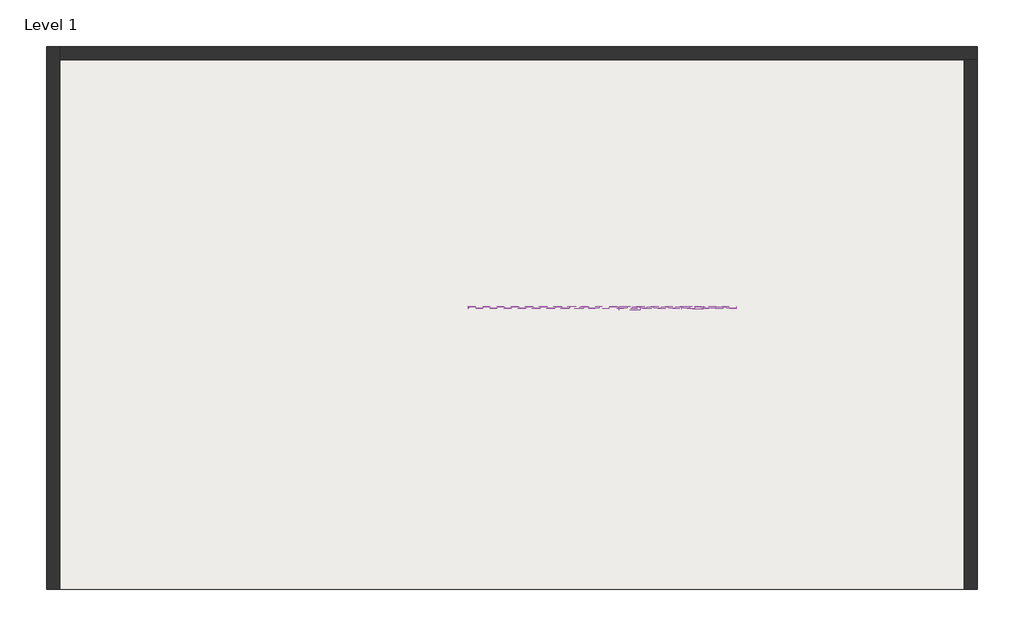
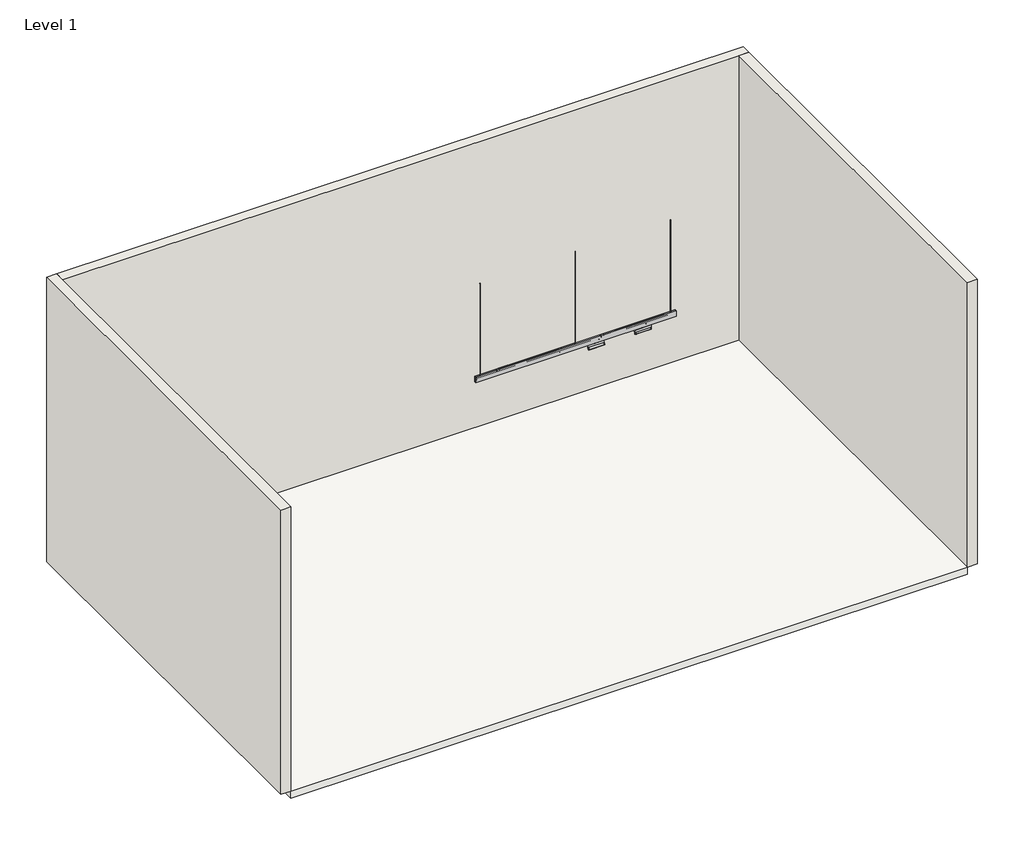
# One storey, incomplete: 12 light fixtures, 3 walls, 1 slab.
"""IFC4 building model written with IfcOpenShell, lengths in millimetres."""

from ifc_helpers import new_model, si_unit, frame, origin, origin_with_axes, place, context, project, spatial, polyline, outline, extrude, faceted_brep, transform, mapped, element, save
from components import light_fixture_b9eeb79a, light_fixture_64d5b7ca, light_fixture_ce8c6549, light_fixture_d14a7875, sup2_track_cover_2m_wh_5201e29f, sup2_track_cover_2m_wh_9b0ccd4b, sup2_track_cover_2m_wh_c25d9a2b, sup2_track_cover_2m_wh_4ac8b3fb, sup2_track_cover_2m_wh_2845657e, sup2_track_h_end_plate_wh_7882d16b

model = new_model("IFC4")

# Units and contexts
model_context = context("Model", 3, world=origin())
ifc_project = project(units=[si_unit("LENGTHUNIT", "METRE", prefix="MILLI")], contexts=[model_context])

# Site, building, storey
site = spatial("IfcSite", under=ifc_project)
building = spatial("IfcBuilding", under=site)
storey = spatial("IfcBuildingStorey", under=building, Name="Level 1", Elevation=0.0)

# Light fixtures
placement = place(None, origin())
light_fixture_shape = light_fixture_b9eeb79a(model_context)
element("IfcLightFixture", 1, ObjectType="Zumtobel SUI TID : SUI TID L1300 2200-840 300MA", at=placement, inside=storey, context=model_context, shape_type="MappedRepresentation", body=[
    mapped(light_fixture_shape, transform((-11347.8537795, 7497.9554472, 4030.0), x_axis=(0.0, 1.0, 0.0), y_axis=(-1.0, 0.0, 0.0), z_axis=(0.0, 0.0, 1.0))),
])
element("IfcLightFixture", 2, ObjectType="Zumtobel SUI TID : SUI TID L1300 2200-840 300MA", at=placement, inside=storey, context=model_context, shape_type="MappedRepresentation", body=[
    mapped(light_fixture_shape, transform((-9264.1037795, 7497.9554472, 4030.0), x_axis=(0.0, 1.0, 0.0), y_axis=(-1.0, 0.0, 0.0), z_axis=(0.0, 0.0, 1.0))),
])
light_fixture_2_shape = light_fixture_64d5b7ca(model_context)
element("IfcLightFixture", 3, ObjectType="Zumtobel SUP2 M WW : SUP2 M WW LED600-940 DIM 3CU WH", at=placement, inside=storey, context=model_context, shape_type="MappedRepresentation", body=[
    mapped(light_fixture_2_shape, transform((-10011.3337562, 8296.9554568, 3946.0), x_axis=(0.0, -1.0, 0.0), y_axis=(-1.0, 0.0, 0.0), z_axis=(0.0, 0.0, -1.0))),
])
light_fixture_3_shape = light_fixture_ce8c6549(model_context)
element("IfcLightFixture", 4, ObjectType="Zumtobel SUP2 M WW : SUP2 M WW LED600-940 DIM 3CU WH", at=placement, inside=storey, context=model_context, shape_type="MappedRepresentation", body=[
    mapped(light_fixture_3_shape, transform((-9074.0342741, 8296.9554568, 3946.0), x_axis=(0.0, -1.0, 0.0), y_axis=(-1.0, 0.0, 0.0), z_axis=(0.0, 0.0, -1.0))),
])
light_fixture_4_shape = light_fixture_d14a7875(model_context)
element("IfcLightFixture", 5, ObjectType="Zumtobel SUPERSYSTEM II Track H : 3PH/L3+DALI Track 3000 WH + Track Profile", at=placement, inside=storey, context=model_context, shape_type="MappedRepresentation", body=[
    mapped(light_fixture_4_shape, transform((-10669.1037795, 7658.255452, 6000.0), x_axis=(0.0, -1.0, 0.0), y_axis=(-1.0, 0.0, 0.0), z_axis=(0.0, 0.0, -1.0))),
])
sup2_track_cover_2m_wh_shape = sup2_track_cover_2m_wh_5201e29f(model_context)
element("IfcLightFixture", 6, ObjectType="Zumtobel SUP2 TRACK COVER 2M WH : SUP2 TRACK COVER 2M WH", at=placement, inside=storey, context=model_context, shape_type="MappedRepresentation", body=[
    mapped(sup2_track_cover_2m_wh_shape, transform((-8019.6037747, 7897.455452, 3996.0), x_axis=(-1.0, 0.0, 0.0), y_axis=(0.0, 1.0, 0.0), z_axis=(0.0, 0.0, -1.0))),
])
sup2_track_cover_2m_wh_2_shape = sup2_track_cover_2m_wh_9b0ccd4b(model_context)
element("IfcLightFixture", 7, ObjectType="Zumtobel SUP2 TRACK COVER 2M WH : SUP2 TRACK COVER 2M WH", at=placement, inside=storey, context=model_context, shape_type="MappedRepresentation", body=[
    mapped(sup2_track_cover_2m_wh_2_shape, transform((-10370.833761, 7897.455452, 3996.0), x_axis=(1.0, 0.0, 0.0), y_axis=(0.0, -1.0, 0.0), z_axis=(0.0, 0.0, -1.0))),
])
sup2_track_cover_2m_wh_3_shape = sup2_track_cover_2m_wh_c25d9a2b(model_context)
element("IfcLightFixture", 8, ObjectType="Zumtobel SUP2 TRACK COVER 2M WH : SUP2 TRACK COVER 2M WH", at=placement, inside=storey, context=model_context, shape_type="MappedRepresentation", body=[
    mapped(sup2_track_cover_2m_wh_3_shape, transform((-9651.8337514, 7897.455452, 3996.0), x_axis=(-1.0, 0.0, 0.0), y_axis=(0.0, 1.0, 0.0), z_axis=(0.0, 0.0, -1.0))),
])
sup2_track_cover_2m_wh_4_shape = sup2_track_cover_2m_wh_4ac8b3fb(model_context)
element("IfcLightFixture", 9, ObjectType="Zumtobel SUP2 TRACK COVER 2M WH : SUP2 TRACK COVER 2M WH", at=placement, inside=storey, context=model_context, shape_type="MappedRepresentation", body=[
    mapped(sup2_track_cover_2m_wh_4_shape, transform((-11159.0511107, 7897.455452, 3996.0), x_axis=(1.0, 0.0, 0.0), y_axis=(0.0, -1.0, 0.0), z_axis=(0.0, 0.0, -1.0))),
])
sup2_track_cover_2m_wh_5_shape = sup2_track_cover_2m_wh_2845657e(model_context)
element("IfcLightFixture", 10, ObjectType="Zumtobel SUP2 TRACK COVER 2M WH : SUP2 TRACK COVER 2M WH", at=placement, inside=storey, context=model_context, shape_type="MappedRepresentation", body=[
    mapped(sup2_track_cover_2m_wh_5_shape, transform((-10510.0511011, 7897.455452, 3996.0), x_axis=(-1.0, 0.0, 0.0), y_axis=(0.0, 1.0, 0.0), z_axis=(0.0, 0.0, -1.0))),
])
sup2_track_h_end_plate_wh_shape = sup2_track_h_end_plate_wh_7882d16b(model_context)
element("IfcLightFixture", 11, ObjectType="Zumtobel SUP2 TRACK H END PLATE WH : SUP2 TRACK H END PLATE WH", at=placement, inside=storey, context=model_context, shape_type="MappedRepresentation", body=[
    mapped(sup2_track_h_end_plate_wh_shape, transform((-12419.1037795, 7497.9554472, 3976.0), x_axis=(0.0, 1.0, 0.0), y_axis=(0.0, 0.0, 1.0), z_axis=(1.0, 0.0, 0.0))),
])
element("IfcLightFixture", 12, ObjectType="Zumtobel SUP2 TRACK H END PLATE WH : SUP2 TRACK H END PLATE WH", at=placement, inside=storey, context=model_context, shape_type="MappedRepresentation", body=[
    mapped(sup2_track_h_end_plate_wh_shape, transform((-8419.1037795, 7497.9554472, 3976.0), x_axis=(0.0, 1.0, 0.0), y_axis=(0.0, 0.0, -1.0), z_axis=(-1.0, 0.0, 0.0))),
])

# Slab
element("IfcSlab", 13, ObjectType="Floor", at=placement, inside=storey, context=model_context, shape_type="SweptSolid", body=[
    extrude(outline(polyline([(-5019.1037795, 11597.455452), (-5019.1037795, 3697.455452), (-18519.1037795, 3697.455452), (-18519.1037795, 11597.455452), (-5019.1037795, 11597.455452)])), frame((0.0, 0.0, -150.0), z_axis=(0.0, 0.0, 1.0), x_axis=(1.0, 0.0, 0.0)), (0.0, 0.0, 1.0), 150.0),
])

# Walls
element("IfcWall", 14, ObjectType="Exterior - Brick on Mtl. Stud", at=placement, inside=storey, context=model_context, shape_type="Brep", body=[
    faceted_brep([(-18519.1037795, 3697.455452, 0.0), (-18519.1037795, 11597.455452, 0.0), (-18519.1037795, 11797.455452, 0.0), (-18519.1037795, 11797.455452, 6000.0), (-18519.1037795, 11597.455452, 6000.0), (-18519.1037795, 3697.455452, 6000.0), (-18719.1037795, 3697.455452, 0.0), (-18719.1037795, 3697.455452, 6000.0), (-18719.1037795, 11797.455452, 6000.0), (-18719.1037795, 11797.455452, 0.0)], [[[0, 1, 2, 3, 4, 5]], [[6, 7, 8, 9]], [[2, 1, 0, 6, 9]], [[5, 4, 3, 8, 7]], [[0, 5, 7, 6]], [[3, 2, 9, 8]]]),
])
element("IfcWall", 15, ObjectType="Exterior - Brick on Mtl. Stud", at=placement, inside=storey, context=model_context, shape_type="Brep", body=[
    faceted_brep([(-18519.1037795, 11597.455452, 0.0), (-5019.1037795, 11597.455452, 0.0), (-4819.1037795, 11597.455452, 0.0), (-4819.1037795, 11597.455452, 6000.0), (-5019.1037795, 11597.455452, 6000.0), (-18519.1037795, 11597.455452, 6000.0), (-18519.1037795, 11797.455452, 0.0), (-18519.1037795, 11797.455452, 6000.0), (-4819.1037795, 11797.455452, 6000.0), (-4819.1037795, 11797.455452, 0.0)], [[[0, 1, 2, 3, 4, 5]], [[6, 7, 8, 9]], [[2, 1, 0, 6, 9]], [[5, 4, 3, 8, 7]], [[0, 5, 7, 6]], [[3, 2, 9, 8]]]),
])
element("IfcWall", 16, ObjectType="Exterior - Brick on Mtl. Stud", at=placement, inside=storey, context=model_context, shape_type="SweptSolid", body=[
    extrude(outline(polyline([(-5019.1037795, 3697.455452), (-5019.1037795, 11597.455452), (-4819.1037795, 11597.455452), (-4819.1037795, 3697.455452), (-5019.1037795, 3697.455452)])), origin_with_axes(), (0.0, 0.0, 1.0), 6000.0),
])

save(model, "model.ifc")
